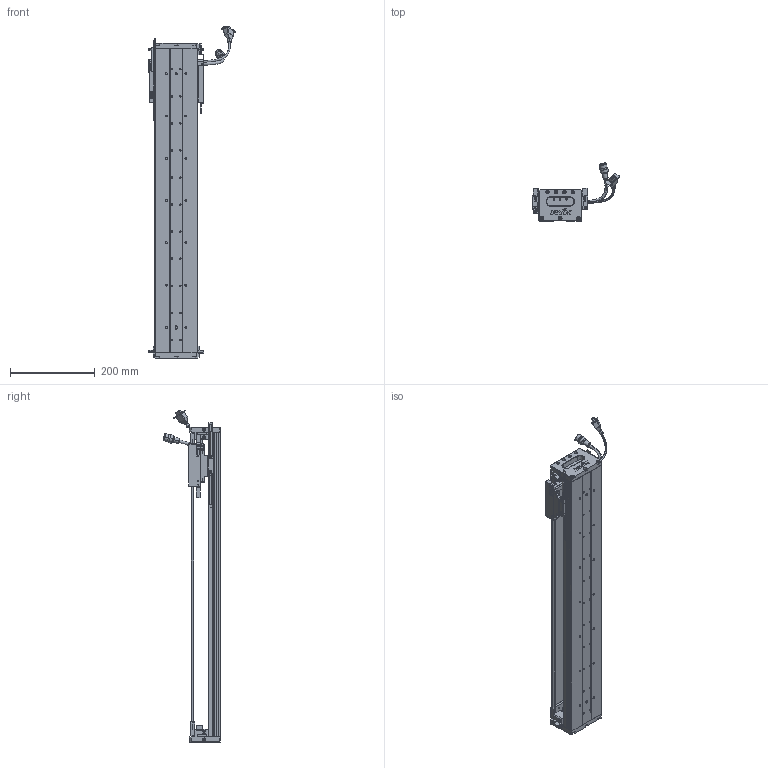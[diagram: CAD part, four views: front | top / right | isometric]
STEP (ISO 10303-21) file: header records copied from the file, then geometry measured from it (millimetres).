
FILE_DESCRIPTION (( 'STEP AP203' ), '1' );
FILE_NAME ('Z1-RY100D-1-L500-B-K.SLDASM_0550.step', '2021-05-17T01:40:21', ( '盈信电脑' ), ( '东莞市道滘镇水果街19号' ), 'SwSTEP 2.0', 'SolidWorks 2016', '' );
FILE_SCHEMA (( 'CONFIG_CONTROL_DESIGN' ));
Length unit declared in the file: millimetre
Products named in the file (36): 140雄赽晤鎢ん堤盄; COVER; 080黍杅芛假蚾釱21遴; SCALE-Part-2; LABEL; SCREW-M1.6-3; COVER-Part-1; Z1-RY100铝滑块（21款）; HARNESS-Part-1; SCREW-M1.7-1; SHIELDPLATE; SEAL-Part-1; Z1-RY100D-1-L500-B-K.SLDASM_0550; SCREW-M1.7; Z1-RY100D-500-倰第菁釱_0550; Z-RY100D詩湍奻揤裔; SCALE-Part-1; SCREW-M1.6; Z1-RY100-L500詩湍90mm遵_0550; Z-RY100D詩湍狟揤裔; SEAL; Z-RY100D覜茼んえ; PBU_SHEET; HOLDER0; Z-100詩湍傷裔啣; 覜茼ん672; PSLH080_PSLF2; LABEL-Part-1; 140蚥薯蝶輸; SCREW-M1.6-1; HARNESS; SCALE; 100-Z-臏賑輸盄裔(21遴); SCREW-M1.6-2; 榋妏寠巭燃_暯_M2_2; HARNESS-Part-2
Assembly tree (44 placements, depth 4):
  Z1-RY100D-1-L500-B-K.SLDASM_0550
    Z1-RY100D-500-倰第菁釱_0550
    Z1-RY100铝滑块（21款）
    PSLH080_PSLF2
      SCALE
        SCALE-Part-1
        SCALE-Part-2
      HARNESS
        HARNESS-Part-1
        HARNESS-Part-2
      LABEL
        LABEL-Part-1
      COVER
        COVER-Part-1
      SEAL
        SEAL-Part-1
      榋妏寠巭燃_暯_M2_2
      SHIELDPLATE
      SCREW-M1.7
      SCREW-M1.7-1
      PBU_SHEET
      SCREW-M1.6
      SCREW-M1.6-1
      SCREW-M1.6-2
      SCREW-M1.6-3
      HOLDER0
    080黍杅芛假蚾釱21遴
    Z-100詩湍傷裔啣  x2
    140蚥薯蝶輸  x2
    覜茼ん672  x4
    Z-RY100D覜茼んえ  x3
    100-Z-臏賑輸盄裔(21遴)
    140雄赽晤鎢ん堤盄
    Z1-RY100-L500詩湍90mm遵_0550
    Z-RY100D詩湍狟揤裔  x2
    Z-RY100D詩湍奻揤裔  x2
Bounding box: 205.84 x 136.11 x 785.43 mm (x, y, z)
Volume: 1670806.5 mm3; surface area: 652703.2 mm2
Topology: 39 solids, 39 shells, 2498 faces, 6505 edges, 4120 vertices
Faces by surface type: plane 1160, cylinder 1006, cone 210, torus 69, bspline 53
Entity records: 64157 total; most frequent: CARTESIAN_POINT 13625, DIRECTION 10027, ORIENTED_EDGE 9442, EDGE_CURVE 4721, AXIS2_PLACEMENT_3D 3638, VERTEX_POINT 3028, VECTOR 2751, LINE 2751
